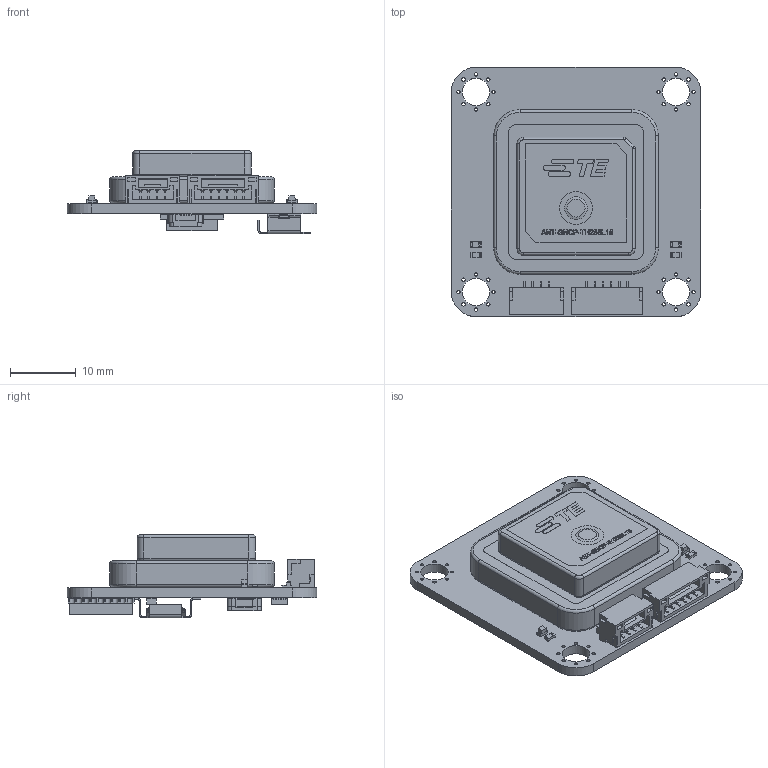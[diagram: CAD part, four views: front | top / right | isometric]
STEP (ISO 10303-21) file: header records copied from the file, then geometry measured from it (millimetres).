
FILE_DESCRIPTION(/* description */ ('KiCad electronic assembly'),/* implementation_level */ '2;1');
FILE_NAME(/* name */ 'Astral_3D_Model.step',/* time_stamp */ '2026-04-30T23:39:56+03:00',/* author */ (''),/* organization */ (''),/* preprocessor_version */ 'ST-DEVELOPER v20.1',/* originating_system */ 'Autodesk Translation Framework v14.24.0.0',/* authorisation */ '');
FILE_SCHEMA (('AUTOMOTIVE_DESIGN { 1 0 10303 214 3 1 1 }'));
Products named in the file (17): gps-max-m130s-public 1; ANT-GNCP-TH258L15; JST_GH_SM04B-GHS-TB_1x04-1MP_P1.25mm_Horizontal; JST_GH_SM06B-GHS-TB_1x06-1MP_P1.25mm_Horizontal; MAX-M10S-00B; MAX2659ELT+T; body; pins; TPS63070RNMR; FRAME-RNM0015A; BODY-QFN; 2998TR--3DModel-STEP-630548; IHLP2020BZER1R0M11; BMM150; gps-max-m10s_PCB; LED_0603_1608Metric; R_0603_1608Metric
Assembly tree (18 placements, depth 3):
  gps-max-m130s-public 1
    LED_0603_1608Metric  x2
    R_0603_1608Metric  x2
    ANT-GNCP-TH258L15
    JST_GH_SM04B-GHS-TB_1x04-1MP_P1.25mm_Horizontal
    JST_GH_SM06B-GHS-TB_1x06-1MP_P1.25mm_Horizontal
    MAX-M10S-00B
    MAX2659ELT+T
      body
      pins
    TPS63070RNMR
      FRAME-RNM0015A
      BODY-QFN
    2998TR--3DModel-STEP-630548
    IHLP2020BZER1R0M11
    BMM150
    gps-max-m10s_PCB
Bounding box: 38 x 38 x 12.78 mm (x, y, z)
Volume: 6284.2 mm3; surface area: 8551.7 mm2
Topology: 107 solids, 107 shells, 3022 faces, 8126 edges, 5364 vertices
Faces by surface type: plane 1877, bspline 850, cylinder 251, sphere 24, torus 18, cone 2
Full cylindrical faces by diameter (mm): 0.263 x2, 0.5 x32, 0.83 x2, 1.03 x1, 1.458 x2, 2.5 x2, 3.5 x2, 4.2 x4, 5 x3
Entity records: 108907 total; most frequent: CARTESIAN_POINT 38199, ORIENTED_EDGE 15786, DIRECTION 11001, EDGE_CURVE 7893, LINE 5681, VECTOR 5681, VERTEX_POINT 5234, EDGE_LOOP 3141
